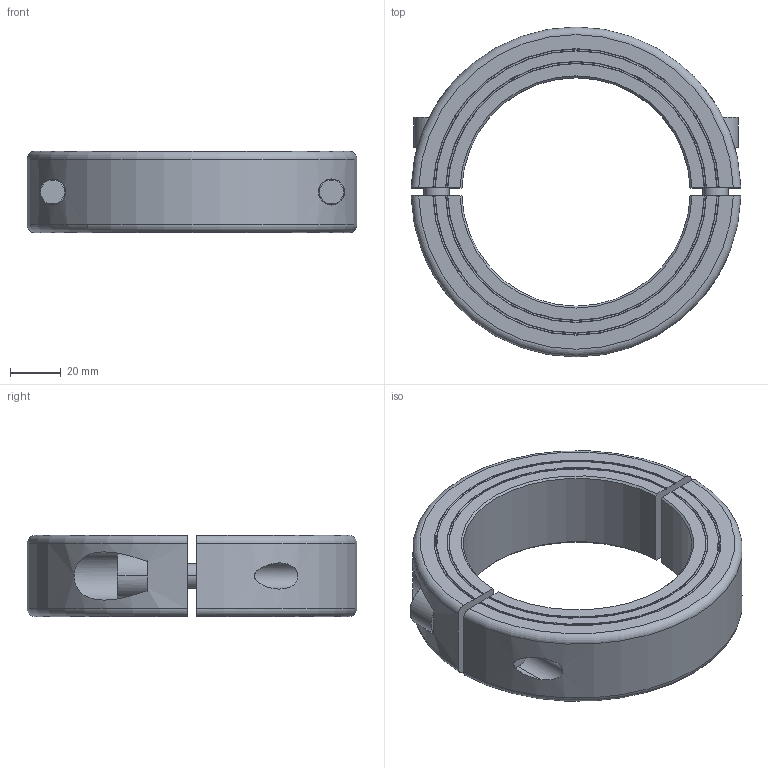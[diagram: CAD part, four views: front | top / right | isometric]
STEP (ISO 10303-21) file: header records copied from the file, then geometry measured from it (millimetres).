
FILE_DESCRIPTION((''),'2;1');
FILE_NAME('MSPH-90-F','2016-09-09T',('SYSTEM'),(''),'PRO/ENGINEER BY PARAMETRIC TECHNOLOGY CORPORATION, 2015110','PRO/ENGINEER BY PARAMETRIC TECHNOLOGY CORPORATION, 2015110','');
FILE_SCHEMA(('AUTOMOTIVE_DESIGN { 1 0 10303 214 1 1 1 1 }'));
Length unit declared in the file: millimetre
Products named in the file (1): MSPH-90-F
Bounding box: 129.96 x 130 x 32 mm (x, y, z)
Volume: 207925.8 mm3; surface area: 45204.6 mm2
Topology: 2 solids, 2 shells, 90 faces, 222 edges, 144 vertices
Faces by surface type: plane 36, cylinder 26, cone 20, torus 8
Entity records: 3555 total; most frequent: CARTESIAN_POINT 750, ORIENTED_EDGE 444, DIRECTION 430, EDGE_CURVE 222, AXIS2_PLACEMENT_3D 168, VERTEX_POINT 144, EDGE_LOOP 102, VECTOR 94
